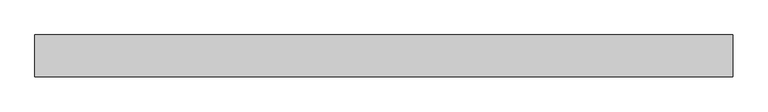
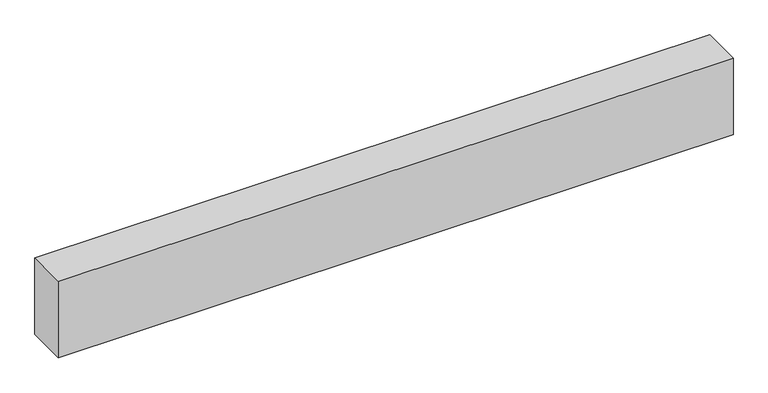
"""IFC4 building model written with IfcOpenShell, lengths in millimetres: beam geometry, NS R30 120x240x2000 : NS R30 120x240x2000."""

from ifc_helpers import new_model, si_unit, origin, origin_with_axes, place, context, project, spatial, polyline, outline, extrude, source, transform, mapped, element, save


def beam_53e4a46f(model_context):
    return source(origin(), model_context, "Body", "SweptSolid", [
        extrude(outline(polyline([(-1000.0, -60.0), (-1000.0, 60.0), (1000.0, 60.0), (1000.0, -60.0), (-1000.0, -60.0)])), origin_with_axes(), (0.0, 0.0, 1.0), 240.0),
    ])


if __name__ == "__main__":
    model = new_model("IFC4")
    model_context = context("Model", 3, world=origin())
    ifc_project = project(units=[si_unit("LENGTHUNIT", "METRE", prefix="MILLI")], contexts=[model_context])
    site = spatial("IfcSite", under=ifc_project)
    building = spatial("IfcBuilding", under=site)
    placement = place(None, origin())
    beam_shape = beam_53e4a46f(model_context)
    element("IfcBeam", 1, ObjectType="NS R30 120x240x2000 : NS R30 120x240x2000", at=placement, inside=building, context=model_context, shape_type="MappedRepresentation", body=[
        mapped(beam_shape, transform((0.0, 0.0, 0.0), x_axis=(1.0, 0.0, 0.0), y_axis=(0.0, 1.0, 0.0), z_axis=(0.0, 0.0, 1.0))),
    ])
    save(model, "model.ifc")
